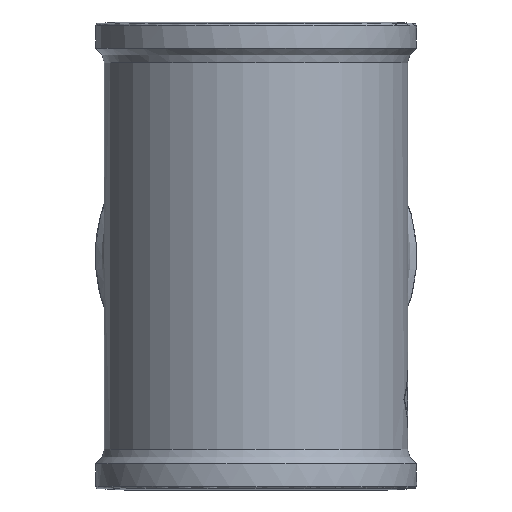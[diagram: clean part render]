
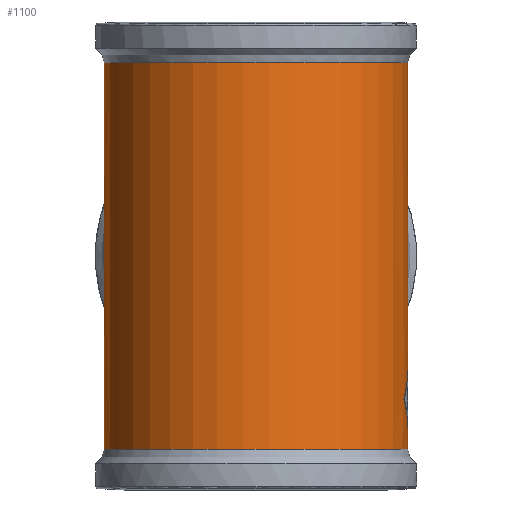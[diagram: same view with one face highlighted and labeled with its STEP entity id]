
A CAD part, left-side view. The second image highlights one B-rep face of the part: STEP entity #1100.
In plain terms, the highlighted cylindrical face has radius 62.3 mm (diameter 124.6 mm), a partial arc.
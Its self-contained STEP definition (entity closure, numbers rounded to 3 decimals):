
#255=CARTESIAN_POINT('',(-1.551,-62.281,-72.71));
#256=VERTEX_POINT('',#255);
#257=CARTESIAN_POINT('',(-14.146,-60.673,-58.715));
#258=VERTEX_POINT('',#257);
#259=CARTESIAN_POINT('',(0.0,0.0,-74.434));
#260=DIRECTION('',(-0.743,0.0,-0.669));
#261=DIRECTION('',(-0.669,0.0,0.743));
#262=AXIS2_PLACEMENT_3D('',#259,#260,#261);
#263=ELLIPSE('',#262,93.129,62.3);
#264=EDGE_CURVE('',#256,#258,#263,.T.);
#287=CARTESIAN_POINT('',(-1.551,-62.281,-44.721));
#288=VERTEX_POINT('',#287);
#289=CARTESIAN_POINT('',(0.0,0.0,-42.997));
#290=DIRECTION('',(-0.743,0.0,0.669));
#291=DIRECTION('',(-0.669,0.0,-0.743));
#292=AXIS2_PLACEMENT_3D('',#289,#290,#291);
#293=ELLIPSE('',#292,93.129,62.3);
#294=EDGE_CURVE('',#258,#288,#293,.T.);
#312=CARTESIAN_POINT('',(11.044,-61.313,-58.715));
#313=VERTEX_POINT('',#312);
#314=CARTESIAN_POINT('',(0.0,0.0,-70.987));
#315=DIRECTION('',(0.743,0.0,-0.669));
#316=DIRECTION('',(-0.669,0.0,-0.743));
#317=AXIS2_PLACEMENT_3D('',#314,#315,#316);
#318=ELLIPSE('',#317,93.129,62.3);
#319=EDGE_CURVE('',#313,#256,#318,.T.);
#337=CARTESIAN_POINT('',(0.0,0.0,-46.444));
#338=DIRECTION('',(0.743,0.0,0.669));
#339=DIRECTION('',(-0.669,0.0,0.743));
#340=AXIS2_PLACEMENT_3D('',#337,#338,#339);
#341=ELLIPSE('',#340,93.129,62.3);
#342=EDGE_CURVE('',#288,#313,#341,.T.);
#1001=CARTESIAN_POINT('',(0.0,0.0,0.0));
#1002=DIRECTION('',(0.0,0.0,1.0));
#1003=DIRECTION('',(-1.0,0.0,0.0));
#1004=AXIS2_PLACEMENT_3D('',#1001,#1002,#1003);
#1005=CYLINDRICAL_SURFACE('',#1004,62.3);
#1006=CARTESIAN_POINT('',(61.784,8.0,79.181));
#1007=VERTEX_POINT('',#1006);
#1008=CARTESIAN_POINT('',(61.784,-8.0,79.181));
#1009=VERTEX_POINT('',#1008);
#1010=CARTESIAN_POINT('',(0.0,0.0,79.181));
#1011=DIRECTION('',(0.0,0.0,1.0));
#1012=DIRECTION('',(1.0,0.0,0.0));
#1013=AXIS2_PLACEMENT_3D('',#1010,#1011,#1012);
#1014=CIRCLE('',#1013,62.3);
#1015=EDGE_CURVE('',#1007,#1009,#1014,.T.);
#1016=ORIENTED_EDGE('',*,*,#1015,.F.);
#1017=CARTESIAN_POINT('',(61.784,8.0,71.701));
#1018=VERTEX_POINT('',#1017);
#1019=CARTESIAN_POINT('',(61.784,8.0,79.181));
#1020=DIRECTION('',(0.0,0.0,-1.0));
#1021=VECTOR('',#1020,7.48);
#1022=LINE('',#1019,#1021);
#1023=EDGE_CURVE('',#1007,#1018,#1022,.T.);
#1024=ORIENTED_EDGE('',*,*,#1023,.T.);
#1025=CARTESIAN_POINT('',(0.0,62.3,0.0));
#1026=VERTEX_POINT('',#1025);
#1027=CARTESIAN_POINT('',(0.0,0.0,0.0));
#1028=DIRECTION('',(0.758,0.0,-0.653));
#1029=DIRECTION('',(0.653,0.0,0.758));
#1030=AXIS2_PLACEMENT_3D('',#1027,#1028,#1029);
#1031=ELLIPSE('',#1030,95.439,62.3);
#1032=EDGE_CURVE('',#1026,#1018,#1031,.T.);
#1033=ORIENTED_EDGE('',*,*,#1032,.F.);
#1034=CARTESIAN_POINT('',(61.784,8.0,-71.701));
#1035=VERTEX_POINT('',#1034);
#1036=CARTESIAN_POINT('',(0.0,0.0,0.0));
#1037=DIRECTION('',(0.758,0.0,0.653));
#1038=DIRECTION('',(0.653,0.0,-0.758));
#1039=AXIS2_PLACEMENT_3D('',#1036,#1037,#1038);
#1040=ELLIPSE('',#1039,95.439,62.3);
#1041=EDGE_CURVE('',#1035,#1026,#1040,.T.);
#1042=ORIENTED_EDGE('',*,*,#1041,.F.);
#1043=CARTESIAN_POINT('',(61.784,8.0,-79.181));
#1044=VERTEX_POINT('',#1043);
#1045=CARTESIAN_POINT('',(61.784,8.0,-71.701));
#1046=DIRECTION('',(0.0,0.0,-1.0));
#1047=VECTOR('',#1046,7.48);
#1048=LINE('',#1045,#1047);
#1049=EDGE_CURVE('',#1035,#1044,#1048,.T.);
#1050=ORIENTED_EDGE('',*,*,#1049,.T.);
#1051=CARTESIAN_POINT('',(61.784,-8.0,-79.181));
#1052=VERTEX_POINT('',#1051);
#1053=CARTESIAN_POINT('',(0.0,0.0,-79.181));
#1054=DIRECTION('',(0.0,0.0,-1.0));
#1055=DIRECTION('',(-1.0,0.0,0.0));
#1056=AXIS2_PLACEMENT_3D('',#1053,#1054,#1055);
#1057=CIRCLE('',#1056,62.3);
#1058=EDGE_CURVE('',#1052,#1044,#1057,.T.);
#1059=ORIENTED_EDGE('',*,*,#1058,.F.);
#1060=CARTESIAN_POINT('',(61.784,-8.0,-71.701));
#1061=VERTEX_POINT('',#1060);
#1062=CARTESIAN_POINT('',(61.784,-8.0,-79.181));
#1063=DIRECTION('',(0.0,0.0,1.0));
#1064=VECTOR('',#1063,7.48);
#1065=LINE('',#1062,#1064);
#1066=EDGE_CURVE('',#1052,#1061,#1065,.T.);
#1067=ORIENTED_EDGE('',*,*,#1066,.T.);
#1068=CARTESIAN_POINT('',(0.0,-62.3,0.0));
#1069=VERTEX_POINT('',#1068);
#1070=CARTESIAN_POINT('',(0.0,0.0,0.0));
#1071=DIRECTION('',(0.758,0.0,0.653));
#1072=DIRECTION('',(0.653,0.0,-0.758));
#1073=AXIS2_PLACEMENT_3D('',#1070,#1071,#1072);
#1074=ELLIPSE('',#1073,95.439,62.3);
#1075=EDGE_CURVE('',#1069,#1061,#1074,.T.);
#1076=ORIENTED_EDGE('',*,*,#1075,.F.);
#1077=CARTESIAN_POINT('',(61.784,-8.0,71.701));
#1078=VERTEX_POINT('',#1077);
#1079=CARTESIAN_POINT('',(0.0,0.0,0.0));
#1080=DIRECTION('',(0.758,0.0,-0.653));
#1081=DIRECTION('',(0.653,0.0,0.758));
#1082=AXIS2_PLACEMENT_3D('',#1079,#1080,#1081);
#1083=ELLIPSE('',#1082,95.439,62.3);
#1084=EDGE_CURVE('',#1078,#1069,#1083,.T.);
#1085=ORIENTED_EDGE('',*,*,#1084,.F.);
#1086=CARTESIAN_POINT('',(61.784,-8.0,71.701));
#1087=DIRECTION('',(0.0,0.0,1.0));
#1088=VECTOR('',#1087,7.48);
#1089=LINE('',#1086,#1088);
#1090=EDGE_CURVE('',#1078,#1009,#1089,.T.);
#1091=ORIENTED_EDGE('',*,*,#1090,.T.);
#1092=EDGE_LOOP('',(#1016,#1024,#1033,#1042,#1050,#1059,#1067,#1076,#1085,#1091));
#1093=FACE_OUTER_BOUND('',#1092,.T.);
#1094=ORIENTED_EDGE('',*,*,#264,.T.);
#1095=ORIENTED_EDGE('',*,*,#294,.T.);
#1096=ORIENTED_EDGE('',*,*,#342,.T.);
#1097=ORIENTED_EDGE('',*,*,#319,.T.);
#1098=EDGE_LOOP('',(#1094,#1095,#1096,#1097));
#1099=FACE_BOUND('',#1098,.T.);
#1100=ADVANCED_FACE('',(#1093,#1099),#1005,.T.);
